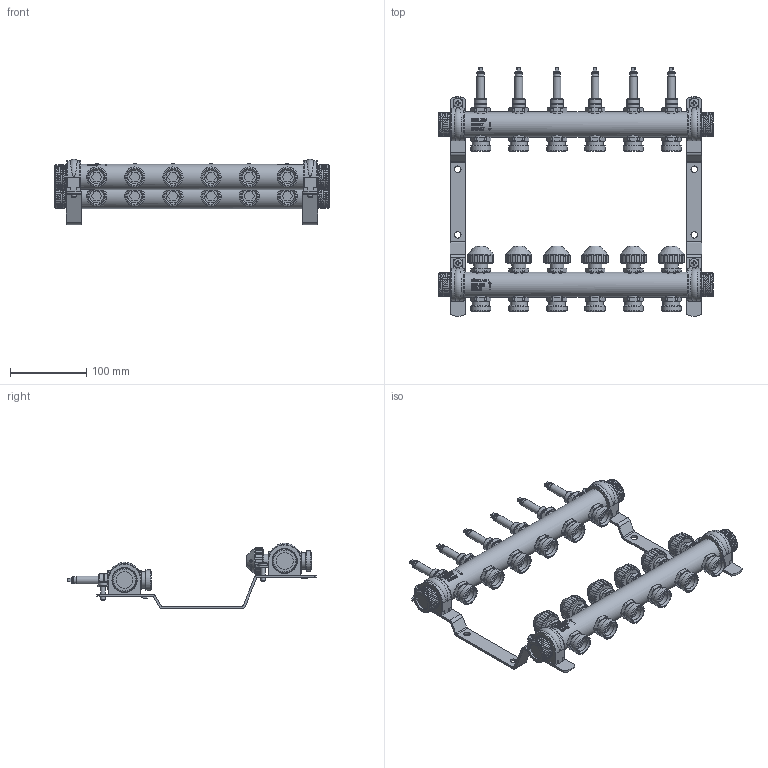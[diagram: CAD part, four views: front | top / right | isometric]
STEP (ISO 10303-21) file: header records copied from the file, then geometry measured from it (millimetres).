
FILE_DESCRIPTION((''),'2;1');
FILE_NAME('C:\Users\duckj\Desktop\10070004.stp','2017-07-11T15:32:42',('duckj'),(''),'Autodesk Inventor 2013','Autodesk Inventor 2013','');
FILE_SCHEMA(('CONFIG_CONTROL_DESIGN'));
Length unit declared in the file: millimetre
Products named in the file (4): 11072017_009; 26102016_005; 11072017_009-1; 11072017_009-2
Assembly tree (4 placements, depth 2):
  11072017_009
    26102016_005  x2
    11072017_009-1
    11072017_009-2
Bounding box: 360 x 326.05 x 85.69 mm (x, y, z)
Volume: 942305.8 mm3; surface area: 207190.9 mm2
Topology: 4 solids, 4 shells, 2664 faces, 6969 edges, 4572 vertices
Faces by surface type: plane 1333, cylinder 653, cone 392, bspline 242, torus 40, sphere 4
Full cylindrical faces by diameter (mm): 6 x8, 8.5 x4, 9 x6, 10 x12, 12 x4, 15.5 x6, 16.5 x12, 18 x6, 18.1 x12, 18.5 x24, 22 x40, 26.441 x12, 30 x6, 33 x6, 33.7 x6
Entity records: 144737 total; most frequent: CARTESIAN_POINT 84533, ORIENTED_EDGE 12434, DIRECTION 11169, EDGE_CURVE 6217, AXIS2_PLACEMENT_3D 4217, VERTEX_POINT 4204, EDGE_LOOP 3029, VECTOR 2735
